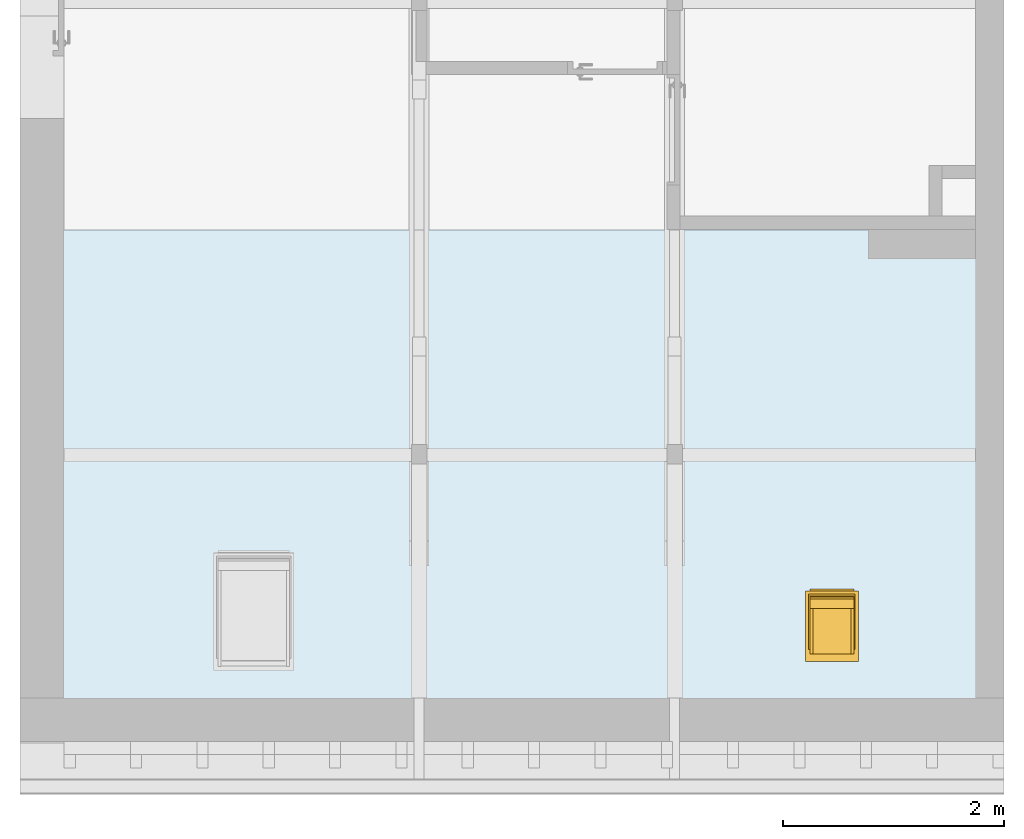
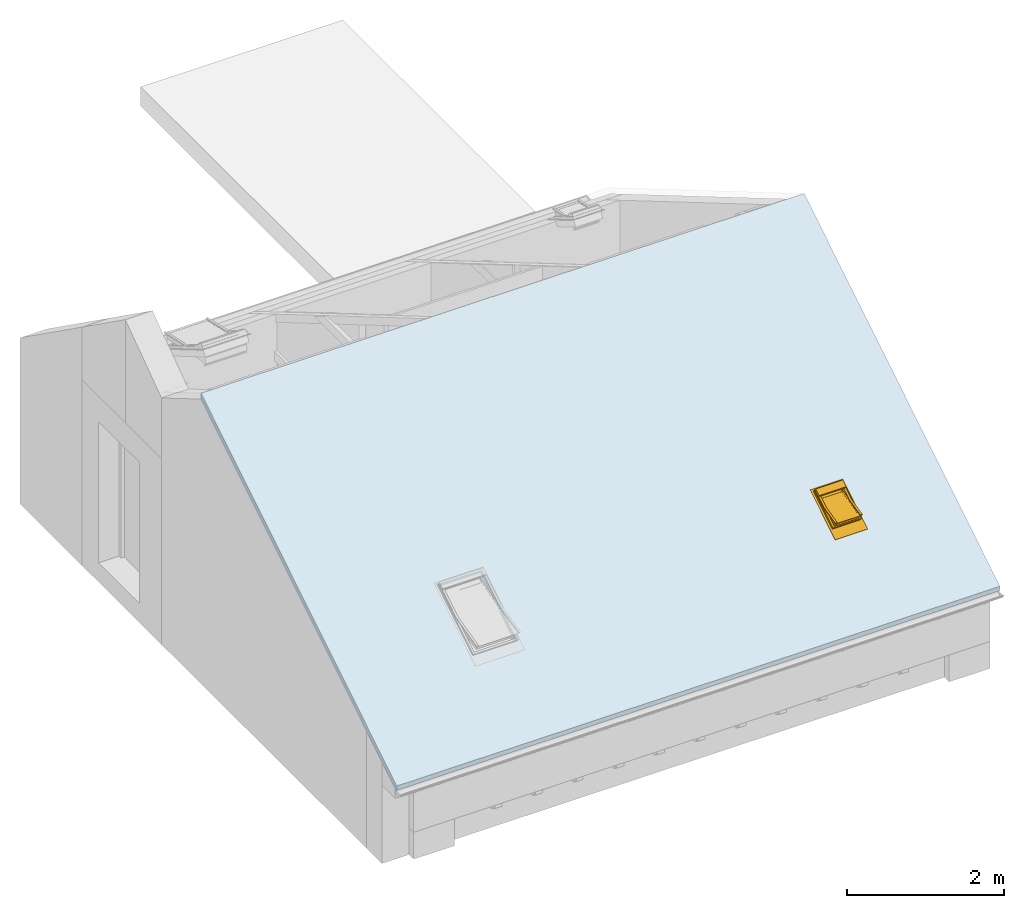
"""IFC4 building model written with IfcOpenShell, lengths in metres."""

import ifcopenshell
import ifcopenshell.guid

model = None  # the IFC model being written
_history = None  # IfcOwnerHistory: only IFC2X3 demands one
_inside = {}  # id of a spatial element -> (the spatial element, [elements in it])
_under = {}  # id of a project, library or spatial element -> (it, [spatial elements below it])
_declared = {}  # id of a project -> (the project, [libraries it declares])
_typed = {}  # id of a type object -> (the type object, [elements of that type])
_made_of = {}  # id of a material, layer set ... -> (it, [elements and type objects made of it])


def new_model(schema):
    """Start an empty IFC model of exactly this schema.

    Asked for "IFC4X3", IfcOpenShell would pick the latest addendum, in which some entities
    have other attributes; the version numbers below select the first issue.
    IFC2X3 requires an IfcOwnerHistory on every rooted entity: one is made here for all.
    """
    global model, _history
    if schema == "IFC4X3":
        model = ifcopenshell.file(schema_version=(4, 3, 0, 0))
    else:
        model = ifcopenshell.file(schema=schema)
    _inside.clear()
    _under.clear()
    _declared.clear()
    _typed.clear()
    _made_of.clear()
    _history = None
    if model.schema == "IFC2X3":
        org = make("IfcOrganization", Name="unknown")
        user = make(
            "IfcPersonAndOrganization",
            ThePerson=make("IfcPerson", FamilyName="unknown"),
            TheOrganization=org,
        )
        app = make(
            "IfcApplication",
            ApplicationDeveloper=org,
            Version="unknown",
            ApplicationFullName="unknown",
            ApplicationIdentifier="unknown",
        )
        _history = make(
            "IfcOwnerHistory",
            OwningUser=user,
            OwningApplication=app,
            ChangeAction="ADDED",
            CreationDate=0,
        )
    return model


def make(cls, **values):
    """One entity of the class cls with the attributes given. An attribute that is None is left unset."""
    return model.create_entity(
        cls, **{name: value for name, value in values.items() if value is not None}
    )


def entity(cls, *values):
    """Any entity or typed value of the class cls, its attributes in the order of the schema. None: left unset."""
    e = model.create_entity(cls)
    for i, value in enumerate(values):
        if value is not None:
            e[i] = value
    return e


def rooted(cls, **values):
    """An entity with a GlobalId (a new one), such as an element, a storey or a relation."""
    return make(cls, GlobalId=ifcopenshell.guid.new(), OwnerHistory=_history, **values)


def si_unit(unit_type, name, prefix=None):
    """IfcSIUnit, for example si_unit("LENGTHUNIT", "METRE", prefix="MILLI")."""
    return make("IfcSIUnit", UnitType=unit_type, Prefix=prefix, Name=name)


def converted_unit(unit_type, name, factor, base, dimensions=None, offset=None):
    """IfcConversionBasedUnit, such as the inch: factor (a typed value) times the base unit."""
    return make(
        "IfcConversionBasedUnit"
        if offset is None
        else "IfcConversionBasedUnitWithOffset",
        ConversionOffset=offset,
        Dimensions=None
        if dimensions is None
        else entity("IfcDimensionalExponents", *dimensions),
        UnitType=unit_type,
        Name=name,
        ConversionFactor=make(
            "IfcMeasureWithUnit", ValueComponent=factor, UnitComponent=base
        ),
    )


def derived_unit(unit_type, elements):
    """IfcDerivedUnit: a product of units, each with its exponent."""
    return make(
        "IfcDerivedUnit",
        Elements=[
            make("IfcDerivedUnitElement", Unit=unit, Exponent=power)
            for unit, power in elements
        ],
        UnitType=unit_type,
    )


def assignment(units):
    """IfcUnitAssignment: the units of a project."""
    return None if units is None else make("IfcUnitAssignment", Units=units)


def point(xyz):
    """IfcCartesianPoint."""
    return None if xyz is None else make("IfcCartesianPoint", Coordinates=xyz)


def direction(xyz):
    """IfcDirection."""
    return None if xyz is None else make("IfcDirection", DirectionRatios=xyz)


def frame(location, z_axis=None, x_axis=None):
    """IfcAxis2Placement3D, a coordinate frame: its origin and axes. An axis left out is left unset."""
    return make(
        "IfcAxis2Placement3D",
        Location=point(location),
        Axis=direction(z_axis),
        RefDirection=direction(x_axis),
    )


def frame_2d(location, x_axis=None):
    """IfcAxis2Placement2D, a coordinate frame in the plane: its origin and x axis."""
    return make(
        "IfcAxis2Placement2D", Location=point(location), RefDirection=direction(x_axis)
    )


def origin():
    """The frame at (0, 0, 0) with its axes left unset."""
    return frame((0.0, 0.0, 0.0))


def origin_with_axes():
    """The frame at (0, 0, 0) with the z axis (0, 0, 1) and the x axis (1, 0, 0) written out."""
    return frame((0.0, 0.0, 0.0), z_axis=(0.0, 0.0, 1.0), x_axis=(1.0, 0.0, 0.0))


def place(relative_to, where):
    """IfcLocalPlacement: puts the frame where relative to a parent placement (None: the world)."""
    return make(
        "IfcLocalPlacement", PlacementRelTo=relative_to, RelativePlacement=where
    )


def context(
    kind, dimensions, precision=None, world=None, true_north=None, identifier=None
):
    """IfcGeometricRepresentationContext, for example the 3D "Model" context."""
    return make(
        "IfcGeometricRepresentationContext",
        ContextIdentifier=identifier,
        ContextType=kind,
        CoordinateSpaceDimension=dimensions,
        Precision=precision,
        WorldCoordinateSystem=world,
        TrueNorth=true_north,
    )


def subcontext(parent, identifier, kind, view, scale=None):
    """IfcGeometricRepresentationSubContext, for example "Body" below "Model"."""
    return make(
        "IfcGeometricRepresentationSubContext",
        ContextIdentifier=identifier,
        ContextType=kind,
        ParentContext=parent,
        TargetScale=scale,
        TargetView=view,
    )


def project(units=None, contexts=None):
    """IfcProject with its units and contexts."""
    return rooted(
        "IfcProject",
        Name="project",
        RepresentationContexts=contexts,
        UnitsInContext=assignment(units),
    )


def spatial(cls, under=None, at=None, **own):
    """A site, building, storey or space (cls), placed at a placement, below another one or the project."""
    s = rooted(cls, ObjectPlacement=at, **own)
    if under is not None:
        _under.setdefault(under.id(), (under, []))[1].append(s)
    return s


def profile(cls, at=None, kind="AREA", **sizes):
    """A parametric profile (cls). Its sizes go by their IFC names, for example OverallWidth=200.0."""
    return make(cls, ProfileType=kind, Position=at, **sizes)


def rectangle(**sizes):
    """IfcRectangleProfileDef."""
    return profile("IfcRectangleProfileDef", **sizes)


def extrude(swept, where, along, depth):
    """IfcExtrudedAreaSolid: the profile swept, set in the frame where, extruded along a direction by depth."""
    return make(
        "IfcExtrudedAreaSolid",
        SweptArea=swept,
        Position=where,
        ExtrudedDirection=direction(along),
        Depth=depth,
    )


def faces_of(points, faces, orient=None, outer=None):
    """IfcFace entities. A face is a list of loops; a loop is a list of indices into points, from 0.

    orient and outer hold one flag for each loop. By default every Orientation is true, the
    first loop of a face is its IfcFaceOuterBound and the others are IfcFaceBound.
    """
    made = []
    for i, loops in enumerate(faces):
        bounds = []
        for j, loop in enumerate(loops):
            is_outer = j == 0 if outer is None else outer[i][j]
            bounds.append(
                make(
                    "IfcFaceOuterBound" if is_outer else "IfcFaceBound",
                    Bound=make("IfcPolyLoop", Polygon=[points[k] for k in loop]),
                    Orientation=True if orient is None else orient[i][j],
                )
            )
        made.append(make("IfcFace", Bounds=bounds))
    return made


def closed_shell(faces, orient=None, outer=None):
    """The faces of one IfcClosedShell. faceted_brep and surface_model build it on their shared points."""
    return ("IfcClosedShell", faces, orient, outer)


def open_shell(faces, orient=None, outer=None):
    """The faces of one IfcOpenShell. surface_model builds it on its shared points."""
    return ("IfcOpenShell", faces, orient, outer)


def faceted_brep(points, faces, orient=None, outer=None, voids=None):
    """IfcFacetedBrep: a solid bounded by flat faces; with voids (closed shells), ...WithVoids."""
    shared = [point(p) for p in points]
    hull = make("IfcClosedShell", CfsFaces=faces_of(shared, faces, orient, outer))
    if voids is None:
        return make("IfcFacetedBrep", Outer=hull)
    return make(
        "IfcFacetedBrepWithVoids",
        Outer=hull,
        Voids=[
            make(cls, CfsFaces=faces_of(shared, fs, o, b)) for cls, fs, o, b in voids
        ],
    )


def surface_model(cls, points, shells):
    """IfcFaceBasedSurfaceModel or IfcShellBasedSurfaceModel (cls): surfaces that need not close."""
    shared = [point(p) for p in points]
    made = [make(c, CfsFaces=faces_of(shared, fs, o, b)) for c, fs, o, b in shells]
    if cls == "IfcFaceBasedSurfaceModel":
        return make(cls, FbsmFaces=made)
    return make(cls, SbsmBoundary=made)


def shape(context_of_items, identifier, shape_type, items):
    """IfcShapeRepresentation: the items that make up one representation, for example the "Body"."""
    return make(
        "IfcShapeRepresentation",
        ContextOfItems=context_of_items,
        RepresentationIdentifier=identifier,
        RepresentationType=shape_type,
        Items=items,
    )


def source(mapping_origin, context_of_items, identifier, shape_type, items):
    """IfcRepresentationMap: a shape defined once, which mapped items show again and again."""
    return make(
        "IfcRepresentationMap",
        MappingOrigin=mapping_origin,
        MappedRepresentation=shape(context_of_items, identifier, shape_type, items),
    )


def transform(
    local_origin,
    x_axis=None,
    y_axis=None,
    z_axis=None,
    scale=None,
    scale2=None,
    scale3=None,
    uniform=True,
):
    """IfcCartesianTransformationOperator3D, or its non-uniform kind. x_axis, y_axis, z_axis: its Axis1, 2, 3."""
    if uniform:
        return make(
            "IfcCartesianTransformationOperator3D",
            Axis1=direction(x_axis),
            Axis2=direction(y_axis),
            LocalOrigin=point(local_origin),
            Scale=scale,
            Axis3=direction(z_axis),
        )
    return make(
        "IfcCartesianTransformationOperator3DnonUniform",
        Axis1=direction(x_axis),
        Axis2=direction(y_axis),
        LocalOrigin=point(local_origin),
        Scale=scale,
        Axis3=direction(z_axis),
        Scale2=scale2,
        Scale3=scale3,
    )


def mapped(mapping_source, mapping_target):
    """IfcMappedItem: shows the shape of a source again, moved by a transform."""
    return make(
        "IfcMappedItem", MappingSource=mapping_source, MappingTarget=mapping_target
    )


def made_of(thing, what):
    """Note that an element or type object is made of a material, layer set ...; save() writes the relation."""
    if what is not None:
        _made_of.setdefault(what.id(), (what, []))[1].append(thing)
    return thing


def element(
    cls,
    number,
    at=None,
    inside=None,
    cuts=None,
    type_object=None,
    material=None,
    context=None,
    identifier="Body",
    shape_type=None,
    held_by="IfcProductDefinitionShape",
    body=None,
    shapes=None,
    **own,
):
    """One element of the class cls, such as IfcWall. Its Tag is "e" and its number.

    at: its placement. inside: the storey or other place that contains it. cuts: it is an
    opening in that element (IfcRelVoidsElement). A single representation is given by context,
    identifier, shape_type and body (its items); several are given by shapes. held_by: the class
    of the entity that holds the representations. save() writes the other relations.
    """
    e = rooted(cls, Tag="e%d" % number, ObjectPlacement=at, **own)
    if body is not None:
        shapes = [shape(context, identifier, shape_type, body)]
    if shapes is not None:
        e.Representation = make(held_by, Representations=shapes)
    if inside is not None:
        _inside.setdefault(inside.id(), (inside, []))[1].append(e)
    if cuts is not None:
        rooted(
            "IfcRelVoidsElement", RelatingBuildingElement=cuts, RelatedOpeningElement=e
        )
    if type_object is not None:
        _typed.setdefault(type_object.id(), (type_object, []))[1].append(e)
    return made_of(e, material)


def fill(opening, filler):
    """IfcRelFillsElement: the door or window that sits in an opening."""
    return rooted(
        "IfcRelFillsElement",
        RelatingOpeningElement=opening,
        RelatedBuildingElement=filler,
    )


def aggregate(whole, parts):
    """IfcRelAggregates: a whole, such as a stair, and the parts it consists of."""
    return rooted("IfcRelAggregates", RelatingObject=whole, RelatedObjects=parts)


def save(model, path):
    """Write the relations noted so far, then the file.

    IfcRelAggregates (storeys below a building ...), IfcRelContainedInSpatialStructure (elements
    in a storey), IfcRelDefinesByType, IfcRelAssociatesMaterial and IfcRelDeclares: one each for
    every whole, place, type object, material and project.
    """
    for whole, parts in _under.values():
        aggregate(whole, parts)
    for where, things in _inside.values():
        rooted(
            "IfcRelContainedInSpatialStructure",
            RelatedElements=things,
            RelatingStructure=where,
        )
    for kind, things in _typed.values():
        rooted("IfcRelDefinesByType", RelatedObjects=things, RelatingType=kind)
    for what, things in _made_of.values():
        rooted("IfcRelAssociatesMaterial", RelatedObjects=things, RelatingMaterial=what)
    for by, libraries in _declared.values():
        rooted("IfcRelDeclares", RelatingContext=by, RelatedDefinitions=libraries)
    model.write(path)


model = new_model("IFC4")

# Units and contexts
model_context = context("Model", 3, precision=1e-05, world=origin())
body_context = subcontext(model_context, "Body", "Model", "MODEL_VIEW")
ifc_project = project(units=[si_unit("LENGTHUNIT", "METRE"), si_unit("AREAUNIT", "SQUARE_METRE"), si_unit("VOLUMEUNIT", "CUBIC_METRE"), si_unit("MASSUNIT", "GRAM", prefix="KILO"), converted_unit("PLANEANGLEUNIT", "DEGREE", entity("IfcPlaneAngleMeasure", 0.0174532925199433), si_unit("PLANEANGLEUNIT", "RADIAN"), dimensions=[0, 0, 0, 0, 0, 0, 0]), derived_unit("THERMALTRANSMITTANCEUNIT", [(si_unit("POWERUNIT", "WATT"), 1), (si_unit("THERMODYNAMICTEMPERATUREUNIT", "KELVIN"), -1), (si_unit("LENGTHUNIT", "METRE"), -2)]), derived_unit("VOLUMETRICFLOWRATEUNIT", [(si_unit("LENGTHUNIT", "METRE"), 3), (converted_unit("TIMEUNIT", "hour", entity("IfcTimeMeasure", 3600.0), si_unit("TIMEUNIT", "SECOND"), dimensions=[0, 0, 1, 0, 0, 0, 0]), -1), (si_unit("LENGTHUNIT", "METRE"), -1)])], contexts=[model_context])

# Building, storeys
building_placement = place(None, origin())
building = spatial("IfcBuilding", under=ifc_project, at=building_placement, Name="Bestandsgebäude A - Sporthalle / Wohnhaus (TB 100-499)   ANPASSEN !!!", CompositionType="ELEMENT")
storey_1_placement = place(building_placement, frame((0.0, 0.0, 7.71)))
storey_1 = spatial("IfcBuildingStorey", under=building, at=storey_1_placement, Name="Geb. A Dachgeschoss (TB 450-499)", CompositionType="ELEMENT", Elevation=7.71)
storey_2_placement = place(storey_1_placement, frame((0.0, 0.0, 7.71)))
storey_2 = spatial("IfcBuildingStorey", under=storey_1, at=storey_2_placement, Name="Architektur (TB 450-459)", CompositionType="PARTIAL")

# Roof, slab, openings, window
roof_placement = place(storey_2_placement, frame((0.0, 0.0, -15.42)))
roof = element("IfcRoof", 1, at=roof_placement, inside=storey_2, PredefinedType="NOTDEFINED")
slab_placement = place(roof_placement, frame((-8.9, -0.380000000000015, 8.68128203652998)))
slab = element("IfcSlab", 2, at=slab_placement, PredefinedType="ROOF", context=body_context, shape_type="Brep", body=[
    faceted_brep([(0.0, 5.00491922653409, 3.06870697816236), (0.0, 0.0420733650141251, 0.0), (8.9, 0.0420733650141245, 0.0), (8.9, 5.0049192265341, 3.06870697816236), (2.43891452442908, 1.20043037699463, 0.71625400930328), (1.78891452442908, 1.20043037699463, 0.71625400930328), (1.78891452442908, 2.0934930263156, 1.26846692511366), (2.43891452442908, 2.0934930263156, 1.26846692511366), (7.54391452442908, 1.28129961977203, 0.766258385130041), (7.14391452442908, 1.28129961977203, 0.766258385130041), (7.14391452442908, 1.74909434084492, 1.05551276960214), (7.54391452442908, 1.74909434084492, 1.05551276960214), (0.0, 5.00388384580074, 3.16212511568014), (8.9, 5.00388384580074, 3.16212511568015), (8.9, 0.0, 0.068042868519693), (0.0, 0.0, 0.068042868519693), (1.78891452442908, 1.1583570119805, 0.784296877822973), (2.43891452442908, 1.1583570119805, 0.784296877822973), (2.43891452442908, 2.05141966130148, 1.33650979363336), (1.78891452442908, 2.05141966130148, 1.33650979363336), (7.14391452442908, 1.2392262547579, 0.834301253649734), (7.54391452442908, 1.2392262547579, 0.834301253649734), (7.54391452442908, 1.7070209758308, 1.12355563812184), (7.14391452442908, 1.7070209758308, 1.12355563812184), (0.0, 0.0, 0.0), (8.9, 0.0, 0.0)], [[[0, 1, 2, 3], [4, 5, 6, 7], [8, 9, 10, 11]], [[12, 13, 14, 15], [16, 17, 18, 19], [20, 21, 22, 23]], [[12, 15, 24, 1, 0]], [[14, 13, 3, 2, 25]], [[13, 12, 0, 3]], [[24, 25, 2, 1]], [[15, 14, 25, 24]], [[16, 5, 4, 17]], [[18, 7, 6, 19]], [[16, 19, 6, 5]], [[18, 17, 4, 7]], [[20, 9, 8, 21]], [[22, 11, 10, 23]], [[20, 23, 10, 9]], [[22, 21, 8, 11]]], orient=[[False, False, False], [False, False, False], [False], [False], [False], [False], [False], [False], [False], [False], [False], [False], [False], [False], [False]]),
])
opening_1_placement = place(slab_placement, frame((1.78891452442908, 1.1583570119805, 0.784296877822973), z_axis=(-5.33434646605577e-17, -0.525917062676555, 0.850535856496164), x_axis=(-1.0, 1.01429423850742e-16, 0.0)))
element("IfcOpeningElement", 3, at=opening_1_placement, cuts=slab, Name="Skylight", ObjectType="Opening", context=body_context, shape_type="SweptSolid", body=[
    extrude(rectangle(XDim=0.65, YDim=1.05, at=frame_2d((-0.325, -0.525), x_axis=(-1.0, 0.0))), origin_with_axes(), (0.0, 0.0, -1.0), 0.08),
])
opening_2_placement = place(slab_placement, frame((7.14391452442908, 1.2392262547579, 0.834301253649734), z_axis=(-5.33434646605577e-17, -0.525917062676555, 0.850535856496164), x_axis=(-1.0, 1.01429423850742e-16, 0.0)))
opening_2 = element("IfcOpeningElement", 4, at=opening_2_placement, cuts=slab, Name="Skylight", ObjectType="Opening", context=body_context, shape_type="SweptSolid", body=[
    extrude(rectangle(XDim=0.4, YDim=0.55, at=frame_2d((-0.2, -0.275), x_axis=(-1.0, 0.0))), origin_with_axes(), (0.0, 0.0, -1.0), 0.08),
])
shared_shape = source(origin_with_axes(), body_context, "Body", "SurfaceModel", [
    surface_model("IfcShellBasedSurfaceModel", [(0.03, 0.15, 0.149221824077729), (0.03, 0.15, 0.189221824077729), (0.049999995, 0.15, 0.189221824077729), (0.049999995, 0.15, 0.149221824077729), (0.03, 0.72, 0.189221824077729), (0.03, 0.72, 0.149221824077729), (0.049999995, 0.72, 0.149221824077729), (0.049999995, 0.72, 0.189221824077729)], [closed_shell([[[0, 1, 2, 3]], [[4, 5, 6, 7]], [[1, 0, 5, 4]], [[2, 1, 4, 7]], [[3, 2, 7, 6]], [[0, 3, 6, 5]]], orient=[[False], [False], [False], [False], [False], [False]])]),
    surface_model("IfcShellBasedSurfaceModel", [(0.430000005, 0.15, 0.149221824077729), (0.430000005, 0.15, 0.189221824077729), (0.45, 0.15, 0.189221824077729), (0.45, 0.15, 0.149221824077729), (0.430000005, 0.72, 0.189221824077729), (0.430000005, 0.72, 0.149221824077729), (0.45, 0.72, 0.149221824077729), (0.45, 0.72, 0.189221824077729)], [closed_shell([[[0, 1, 2, 3]], [[4, 5, 6, 7]], [[1, 0, 5, 4]], [[2, 1, 4, 7]], [[3, 2, 7, 6]], [[0, 3, 6, 5]]], orient=[[False], [False], [False], [False], [False], [False]])]),
    surface_model("IfcShellBasedSurfaceModel", [(0.049999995, 0.15, 0.149221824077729), (0.049999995, 0.15, 0.184221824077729), (0.430000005, 0.15, 0.184221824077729), (0.430000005, 0.15, 0.149221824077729), (0.049999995, 0.169999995, 0.184221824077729), (0.049999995, 0.169999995, 0.149221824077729), (0.430000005, 0.169999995, 0.149221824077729), (0.430000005, 0.169999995, 0.184221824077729)], [closed_shell([[[0, 1, 2, 3]], [[4, 5, 6, 7]], [[1, 0, 5, 4]], [[2, 1, 4, 7]], [[3, 2, 7, 6]], [[0, 3, 6, 5]]], orient=[[False], [False], [False], [False], [False], [False]])]),
    surface_model("IfcShellBasedSurfaceModel", [(0.049999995, 0.700000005, 0.149221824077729), (0.049999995, 0.700000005, 0.189221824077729), (0.430000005, 0.700000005, 0.189221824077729), (0.430000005, 0.700000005, 0.149221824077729), (0.049999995, 0.72, 0.189221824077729), (0.049999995, 0.72, 0.149221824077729), (0.430000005, 0.72, 0.149221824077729), (0.430000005, 0.72, 0.189221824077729)], [closed_shell([[[0, 1, 2, 3]], [[4, 5, 6, 7]], [[1, 0, 5, 4]], [[2, 1, 4, 7]], [[3, 2, 7, 6]], [[0, 3, 6, 5]]], orient=[[False], [False], [False], [False], [False], [False]])]),
    surface_model("IfcShellBasedSurfaceModel", [(0.0, 0.0, 0.149221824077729), (0.0, 0.0, 0.154221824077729), (0.03, 0.0, 0.154221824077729), (0.03, 0.0, 0.149221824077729), (0.0, 0.72, 0.154221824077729), (0.0, 0.72, 0.149221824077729), (0.03, 0.72, 0.149221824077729), (0.03, 0.72, 0.154221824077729)], [closed_shell([[[0, 1, 2, 3]], [[4, 5, 6, 7]], [[1, 0, 5, 4]], [[2, 1, 4, 7]], [[3, 2, 7, 6]], [[0, 3, 6, 5]]], orient=[[False], [False], [False], [False], [False], [False]])]),
    surface_model("IfcShellBasedSurfaceModel", [(0.03, 0.0, 0.149221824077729), (0.03, 0.0, 0.154221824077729), (0.45, 0.0, 0.154221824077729), (0.45, 0.0, 0.149221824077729), (0.03, 0.15, 0.154221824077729), (0.03, 0.15, 0.149221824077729), (0.45, 0.15, 0.149221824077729), (0.45, 0.15, 0.154221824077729)], [closed_shell([[[0, 1, 2, 3]], [[4, 5, 6, 7]], [[1, 0, 5, 4]], [[2, 1, 4, 7]], [[3, 2, 7, 6]], [[0, 3, 6, 5]]], orient=[[False], [False], [False], [False], [False], [False]])]),
    surface_model("IfcShellBasedSurfaceModel", [(0.45, 0.0, 0.149221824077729), (0.45, 0.0, 0.154221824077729), (0.48, 0.0, 0.154221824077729), (0.48, 0.0, 0.149221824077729), (0.45, 0.72, 0.154221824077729), (0.45, 0.72, 0.149221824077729), (0.48, 0.72, 0.149221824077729), (0.48, 0.72, 0.154221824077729)], [closed_shell([[[0, 1, 2, 3]], [[4, 5, 6, 7]], [[1, 0, 5, 4]], [[2, 1, 4, 7]], [[3, 2, 7, 6]], [[0, 3, 6, 5]]], orient=[[False], [False], [False], [False], [False], [False]])]),
    surface_model("IfcShellBasedSurfaceModel", [(0.0, 0.72, 0.149221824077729), (0.0, 0.72, 0.154221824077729), (0.48, 0.72, 0.154221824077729), (0.48, 0.72, 0.149221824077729), (0.0, 0.75, 0.154221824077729), (0.0, 0.75, 0.149221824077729), (0.48, 0.75, 0.149221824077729), (0.48, 0.75, 0.154221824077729)], [closed_shell([[[0, 1, 2, 3]], [[4, 5, 6, 7]], [[1, 0, 5, 4]], [[2, 1, 4, 7]], [[3, 2, 7, 6]], [[0, 3, 6, 5]]], orient=[[False], [False], [False], [False], [False], [False]])]),
    surface_model("IfcShellBasedSurfaceModel", [(0.049999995, 0.17999999, 0.149221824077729), (0.049999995, 0.17999999, 0.189221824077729), (0.05999999, 0.17999999, 0.189221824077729), (0.05999999, 0.17999999, 0.0492218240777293), (0.04, 0.17999999, 0.0492218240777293), (0.04, 0.17999999, 0.149221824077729), (0.049999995, 0.69000001, 0.189221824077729), (0.049999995, 0.69000001, 0.149221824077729), (0.04, 0.69000001, 0.149221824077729), (0.04, 0.69000001, 0.0492218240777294), (0.05999999, 0.69000001, 0.0492218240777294), (0.05999999, 0.69000001, 0.189221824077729)], [closed_shell([[[0, 1, 2, 3, 4, 5]], [[6, 7, 8, 9, 10, 11]], [[1, 0, 7, 6]], [[2, 1, 6, 11]], [[3, 2, 11, 10]], [[4, 3, 10, 9]], [[5, 4, 9, 8]], [[0, 5, 8, 7]]], orient=[[False], [False], [False], [False], [False], [False], [False], [False]])]),
    surface_model("IfcShellBasedSurfaceModel", [(0.42000001, 0.17999999, 0.0492218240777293), (0.42000001, 0.17999999, 0.189221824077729), (0.430000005, 0.17999999, 0.189221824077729), (0.430000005, 0.17999999, 0.149221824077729), (0.44, 0.17999999, 0.149221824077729), (0.44, 0.17999999, 0.0492218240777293), (0.42000001, 0.69000001, 0.189221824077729), (0.42000001, 0.69000001, 0.0492218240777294), (0.44, 0.69000001, 0.0492218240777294), (0.44, 0.69000001, 0.149221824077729), (0.430000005, 0.69000001, 0.149221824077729), (0.430000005, 0.69000001, 0.189221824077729)], [closed_shell([[[0, 1, 2, 3, 4, 5]], [[6, 7, 8, 9, 10, 11]], [[1, 0, 7, 6]], [[2, 1, 6, 11]], [[3, 2, 11, 10]], [[4, 3, 10, 9]], [[5, 4, 9, 8]], [[0, 5, 8, 7]]], orient=[[False], [False], [False], [False], [False], [False], [False], [False]])]),
    surface_model("IfcShellBasedSurfaceModel", [(0.04, 0.17999999, 0.184221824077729), (0.04, 0.169999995, 0.184221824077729), (0.04, 0.169999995, 0.149221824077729), (0.04, 0.16, 0.149221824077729), (0.04, 0.16, 0.0492218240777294), (0.04, 0.17999999, 0.0492218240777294), (0.44, 0.169999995, 0.184221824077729), (0.44, 0.17999999, 0.184221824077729), (0.44, 0.17999999, 0.0492218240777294), (0.44, 0.16, 0.0492218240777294), (0.44, 0.16, 0.149221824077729), (0.44, 0.169999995, 0.149221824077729)], [closed_shell([[[0, 1, 2, 3, 4, 5]], [[6, 7, 8, 9, 10, 11]], [[1, 0, 7, 6]], [[2, 1, 6, 11]], [[3, 2, 11, 10]], [[4, 3, 10, 9]], [[5, 4, 9, 8]], [[0, 5, 8, 7]]], orient=[[False], [False], [False], [False], [False], [False], [False], [False]])]),
    surface_model("IfcShellBasedSurfaceModel", [(0.04, 0.700000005, 0.189221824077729), (0.04, 0.69000001, 0.189221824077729), (0.04, 0.69000001, 0.0492218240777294), (0.04, 0.71, 0.0492218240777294), (0.04, 0.71, 0.149221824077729), (0.04, 0.700000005, 0.149221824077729), (0.44, 0.69000001, 0.189221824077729), (0.44, 0.700000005, 0.189221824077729), (0.44, 0.700000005, 0.149221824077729), (0.44, 0.71, 0.149221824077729), (0.44, 0.71, 0.0492218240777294), (0.44, 0.69000001, 0.0492218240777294)], [closed_shell([[[0, 1, 2, 3, 4, 5]], [[6, 7, 8, 9, 10, 11]], [[1, 0, 7, 6]], [[2, 1, 6, 11]], [[3, 2, 11, 10]], [[4, 3, 10, 9]], [[5, 4, 9, 8]], [[0, 5, 8, 7]]], orient=[[False], [False], [False], [False], [False], [False], [False], [False]])]),
    surface_model("IfcShellBasedSurfaceModel", [(0.03999999, 0.435, 0.189221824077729), (0.03999999, 0.435, 0.204221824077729), (0.06999999, 0.435, 0.204221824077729), (0.06999999, 0.435, 0.189221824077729), (0.03999999, 0.69000001, 0.204221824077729), (0.03999999, 0.69000001, 0.189221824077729), (0.06999999, 0.69000001, 0.189221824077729), (0.06999999, 0.69000001, 0.204221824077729)], [closed_shell([[[0, 1, 2, 3]], [[4, 5, 6, 7]], [[1, 0, 5, 4]], [[2, 1, 4, 7]], [[3, 2, 7, 6]], [[0, 3, 6, 5]]], orient=[[False], [False], [False], [False], [False], [False]])]),
    surface_model("IfcShellBasedSurfaceModel", [(0.41000001, 0.435, 0.189221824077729), (0.41000001, 0.435, 0.204221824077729), (0.44000001, 0.435, 0.204221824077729), (0.44000001, 0.435, 0.189221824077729), (0.41000001, 0.69000001, 0.204221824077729), (0.41000001, 0.69000001, 0.189221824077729), (0.44000001, 0.69000001, 0.189221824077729), (0.44000001, 0.69000001, 0.204221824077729)], [closed_shell([[[0, 1, 2, 3]], [[4, 5, 6, 7]], [[1, 0, 5, 4]], [[2, 1, 4, 7]], [[3, 2, 7, 6]], [[0, 3, 6, 5]]], orient=[[False], [False], [False], [False], [False], [False]])]),
    surface_model("IfcShellBasedSurfaceModel", [(0.04, 0.61000001, 0.189221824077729), (0.04, 0.61000001, 0.229221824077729), (0.44, 0.61000001, 0.229221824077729), (0.44, 0.61000001, 0.189221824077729), (0.04, 0.71, 0.229221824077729), (0.04, 0.71, 0.189221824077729), (0.44, 0.71, 0.189221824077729), (0.44, 0.71, 0.229221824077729)], [closed_shell([[[0, 1, 2, 3]], [[4, 5, 6, 7]], [[1, 0, 5, 4]], [[2, 1, 4, 7]], [[3, 2, 7, 6]], [[0, 3, 6, 5]]], orient=[[False], [False], [False], [False], [False], [False]])]),
    surface_model("IfcShellBasedSurfaceModel", [(0.07999998, 0.206093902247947, 0.260197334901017), (0.40000002, 0.206093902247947, 0.260197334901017), (0.40000002, 0.596027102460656, 0.133500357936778), (0.07999998, 0.596027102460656, 0.133500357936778)], [open_shell([[[0, 1, 2, 3]]], orient=[[False]])]),
    surface_model("IfcShellBasedSurfaceModel", [(0.069999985, 0.195810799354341, 0.260909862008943), (0.069999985, 0.197355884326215, 0.265665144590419), (0.07999998, 0.197355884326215, 0.265665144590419), (0.07999998, 0.195810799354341, 0.260909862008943), (0.069999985, 0.606310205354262, 0.132787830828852), (0.069999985, 0.604765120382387, 0.128032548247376), (0.07999998, 0.604765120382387, 0.128032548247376), (0.07999998, 0.606310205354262, 0.132787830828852)], [closed_shell([[[0, 1, 2, 3]], [[4, 5, 6, 7]], [[1, 0, 5, 4]], [[2, 1, 4, 7]], [[3, 2, 7, 6]], [[0, 3, 6, 5]]], orient=[[False], [False], [False], [False], [False], [False]])]),
    surface_model("IfcShellBasedSurfaceModel", [(0.40000002, 0.195810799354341, 0.260909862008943), (0.40000002, 0.197355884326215, 0.265665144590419), (0.410000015, 0.197355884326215, 0.265665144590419), (0.410000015, 0.195810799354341, 0.260909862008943), (0.40000002, 0.606310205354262, 0.132787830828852), (0.40000002, 0.604765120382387, 0.128032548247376), (0.410000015, 0.604765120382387, 0.128032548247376), (0.410000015, 0.606310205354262, 0.132787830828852)], [closed_shell([[[0, 1, 2, 3]], [[4, 5, 6, 7]], [[1, 0, 5, 4]], [[2, 1, 4, 7]], [[3, 2, 7, 6]], [[0, 3, 6, 5]]], orient=[[False], [False], [False], [False], [False], [False]])]),
    surface_model("IfcShellBasedSurfaceModel", [(0.07999998, 0.195810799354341, 0.260909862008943), (0.07999998, 0.197355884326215, 0.265665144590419), (0.40000002, 0.197355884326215, 0.265665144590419), (0.40000002, 0.195810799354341, 0.260909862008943), (0.07999998, 0.206866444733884, 0.262574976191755), (0.07999998, 0.20532135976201, 0.257819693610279), (0.40000002, 0.20532135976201, 0.257819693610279), (0.40000002, 0.206866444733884, 0.262574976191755)], [closed_shell([[[0, 1, 2, 3]], [[4, 5, 6, 7]], [[1, 0, 5, 4]], [[2, 1, 4, 7]], [[3, 2, 7, 6]], [[0, 3, 6, 5]]], orient=[[False], [False], [False], [False], [False], [False]])]),
    surface_model("IfcShellBasedSurfaceModel", [(0.07999998, 0.595254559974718, 0.131122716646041), (0.07999998, 0.596799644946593, 0.135877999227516), (0.40000002, 0.596799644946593, 0.135877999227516), (0.40000002, 0.595254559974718, 0.131122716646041), (0.07999998, 0.606310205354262, 0.132787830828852), (0.07999998, 0.604765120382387, 0.128032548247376), (0.40000002, 0.604765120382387, 0.128032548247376), (0.40000002, 0.606310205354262, 0.132787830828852)], [closed_shell([[[0, 1, 2, 3]], [[4, 5, 6, 7]], [[1, 0, 5, 4]], [[2, 1, 4, 7]], [[3, 2, 7, 6]], [[0, 3, 6, 5]]], orient=[[False], [False], [False], [False], [False], [False]])]),
    surface_model("IfcShellBasedSurfaceModel", [(0.05999999, 0.163123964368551, 0.192670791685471), (0.05999999, 0.187845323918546, 0.268755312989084), (0.069999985, 0.187845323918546, 0.268755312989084), (0.069999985, 0.186300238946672, 0.264000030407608), (0.07999998, 0.186300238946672, 0.264000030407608), (0.07999998, 0.163123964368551, 0.192670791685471), (0.05999999, 0.672884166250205, 0.11115663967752), (0.05999999, 0.648162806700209, 0.0350721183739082), (0.07999998, 0.648162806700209, 0.0350721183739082), (0.07999998, 0.671339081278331, 0.106401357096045), (0.069999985, 0.671339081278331, 0.106401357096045), (0.069999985, 0.672884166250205, 0.11115663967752)], [closed_shell([[[0, 1, 2, 3, 4, 5]], [[6, 7, 8, 9, 10, 11]], [[1, 0, 7, 6]], [[2, 1, 6, 11]], [[3, 2, 11, 10]], [[4, 3, 10, 9]], [[5, 4, 9, 8]], [[0, 5, 8, 7]]], orient=[[False], [False], [False], [False], [False], [False], [False], [False]])]),
    surface_model("IfcShellBasedSurfaceModel", [(0.410000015, 0.186300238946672, 0.264000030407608), (0.410000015, 0.187845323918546, 0.268755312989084), (0.42000001, 0.187845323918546, 0.268755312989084), (0.42000001, 0.163123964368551, 0.192670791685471), (0.40000002, 0.163123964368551, 0.192670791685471), (0.40000002, 0.186300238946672, 0.264000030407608), (0.410000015, 0.672884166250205, 0.11115663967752), (0.410000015, 0.671339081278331, 0.106401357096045), (0.40000002, 0.671339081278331, 0.106401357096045), (0.40000002, 0.648162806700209, 0.0350721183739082), (0.42000001, 0.648162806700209, 0.0350721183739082), (0.42000001, 0.672884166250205, 0.11115663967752)], [closed_shell([[[0, 1, 2, 3, 4, 5]], [[6, 7, 8, 9, 10, 11]], [[1, 0, 7, 6]], [[2, 1, 6, 11]], [[3, 2, 11, 10]], [[4, 3, 10, 9]], [[5, 4, 9, 8]], [[0, 5, 8, 7]]], orient=[[False], [False], [False], [False], [False], [False], [False], [False]])]),
    surface_model("IfcShellBasedSurfaceModel", [(0.07999998, 0.163123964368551, 0.192670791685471), (0.07999998, 0.186300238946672, 0.264000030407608), (0.40000002, 0.186300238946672, 0.264000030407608), (0.40000002, 0.163123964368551, 0.192670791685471), (0.07999998, 0.20532135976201, 0.257819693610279), (0.07999998, 0.182145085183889, 0.186490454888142), (0.40000002, 0.182145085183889, 0.186490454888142), (0.40000002, 0.20532135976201, 0.257819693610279)], [closed_shell([[[0, 1, 2, 3]], [[4, 5, 6, 7]], [[1, 0, 5, 4]], [[2, 1, 4, 7]], [[3, 2, 7, 6]], [[0, 3, 6, 5]]], orient=[[False], [False], [False], [False], [False], [False]])]),
    surface_model("IfcShellBasedSurfaceModel", [(0.07999998, 0.572078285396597, 0.059793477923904), (0.07999998, 0.595254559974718, 0.131122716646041), (0.40000002, 0.595254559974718, 0.131122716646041), (0.40000002, 0.572078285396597, 0.059793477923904), (0.07999998, 0.671339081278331, 0.106401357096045), (0.07999998, 0.648162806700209, 0.0350721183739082), (0.40000002, 0.648162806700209, 0.0350721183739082), (0.40000002, 0.671339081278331, 0.106401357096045)], [closed_shell([[[0, 1, 2, 3]], [[4, 5, 6, 7]], [[1, 0, 5, 4]], [[2, 1, 4, 7]], [[3, 2, 7, 6]], [[0, 3, 6, 5]]], orient=[[False], [False], [False], [False], [False], [False]])]),
    surface_model("IfcShellBasedSurfaceModel", [(0.05999999, 0.576953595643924, 0.0424374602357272), (0.05999999, 0.581588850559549, 0.0567033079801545), (0.42000001, 0.581588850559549, 0.0567033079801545), (0.42000001, 0.576953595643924, 0.0424374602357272), (0.05999999, 0.638652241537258, 0.0381622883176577), (0.05999999, 0.634016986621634, 0.0238964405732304), (0.42000001, 0.634016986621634, 0.0238964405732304), (0.42000001, 0.638652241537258, 0.0381622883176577)], [closed_shell([[[0, 1, 2, 3]], [[4, 5, 6, 7]], [[1, 0, 5, 4]], [[2, 1, 4, 7]], [[3, 2, 7, 6]], [[0, 3, 6, 5]]], orient=[[False], [False], [False], [False], [False], [False]])]),
    surface_model("IfcShellBasedSurfaceModel", [(0.07499999, 0.592172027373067, 0.0164634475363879), (0.07499999, 0.598352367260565, 0.0354845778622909), (0.08999999, 0.598352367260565, 0.0354845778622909), (0.08999999, 0.592172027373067, 0.0164634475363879), (0.07499999, 0.612618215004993, 0.0308493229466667), (0.07499999, 0.606437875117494, 0.0118281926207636), (0.08999999, 0.606437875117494, 0.0118281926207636), (0.08999999, 0.612618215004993, 0.0308493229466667)], [closed_shell([[[0, 1, 2, 3]], [[4, 5, 6, 7]], [[1, 0, 5, 4]], [[2, 1, 4, 7]], [[3, 2, 7, 6]], [[0, 3, 6, 5]]], orient=[[False], [False], [False], [False], [False], [False]])]),
    surface_model("IfcShellBasedSurfaceModel", [(0.179999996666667, 0.592172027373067, 0.0164634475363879), (0.179999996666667, 0.598352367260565, 0.0354845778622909), (0.194999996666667, 0.598352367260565, 0.0354845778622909), (0.194999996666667, 0.592172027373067, 0.0164634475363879), (0.179999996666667, 0.612618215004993, 0.0308493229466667), (0.179999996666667, 0.606437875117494, 0.0118281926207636), (0.194999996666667, 0.606437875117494, 0.0118281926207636), (0.194999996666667, 0.612618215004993, 0.0308493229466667)], [closed_shell([[[0, 1, 2, 3]], [[4, 5, 6, 7]], [[1, 0, 5, 4]], [[2, 1, 4, 7]], [[3, 2, 7, 6]], [[0, 3, 6, 5]]], orient=[[False], [False], [False], [False], [False], [False]])]),
    surface_model("IfcShellBasedSurfaceModel", [(0.285000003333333, 0.592172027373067, 0.0164634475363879), (0.285000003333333, 0.598352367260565, 0.0354845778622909), (0.300000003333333, 0.598352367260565, 0.0354845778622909), (0.300000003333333, 0.592172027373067, 0.0164634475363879), (0.285000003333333, 0.612618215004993, 0.0308493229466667), (0.285000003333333, 0.606437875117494, 0.0118281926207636), (0.300000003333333, 0.606437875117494, 0.0118281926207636), (0.300000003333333, 0.612618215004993, 0.0308493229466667)], [closed_shell([[[0, 1, 2, 3]], [[4, 5, 6, 7]], [[1, 0, 5, 4]], [[2, 1, 4, 7]], [[3, 2, 7, 6]], [[0, 3, 6, 5]]], orient=[[False], [False], [False], [False], [False], [False]])]),
    surface_model("IfcShellBasedSurfaceModel", [(0.39000001, 0.592172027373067, 0.0164634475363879), (0.39000001, 0.598352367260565, 0.0354845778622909), (0.40500001, 0.598352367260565, 0.0354845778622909), (0.40500001, 0.592172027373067, 0.0164634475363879), (0.39000001, 0.612618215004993, 0.0308493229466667), (0.39000001, 0.606437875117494, 0.0118281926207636), (0.40500001, 0.606437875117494, 0.0118281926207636), (0.40500001, 0.612618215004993, 0.0308493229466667)], [closed_shell([[[0, 1, 2, 3]], [[4, 5, 6, 7]], [[1, 0, 5, 4]], [[2, 1, 4, 7]], [[3, 2, 7, 6]], [[0, 3, 6, 5]]], orient=[[False], [False], [False], [False], [False], [False]])]),
    surface_model("IfcShellBasedSurfaceModel", [(0.05999999, 0.581948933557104, 0.0092705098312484), (0.05999999, 0.585039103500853, 0.0187810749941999), (0.42000001, 0.585039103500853, 0.0187810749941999), (0.42000001, 0.581948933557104, 0.0092705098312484), (0.05999999, 0.613570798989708, 0.00951056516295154), (0.05999999, 0.610480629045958, 0.0), (0.42000001, 0.610480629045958, 0.0), (0.42000001, 0.613570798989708, 0.00951056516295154)], [closed_shell([[[0, 1, 2, 3]], [[4, 5, 6, 7]], [[1, 0, 5, 4]], [[2, 1, 4, 7]], [[3, 2, 7, 6]], [[0, 3, 6, 5]]], orient=[[False], [False], [False], [False], [False], [False]])]),
    surface_model("IfcShellBasedSurfaceModel", [(0.03999999, 0.159313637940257, 0.278025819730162), (0.03999999, 0.163948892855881, 0.292291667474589), (0.06999999, 0.163948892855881, 0.292291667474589), (0.06999999, 0.159313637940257, 0.278025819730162), (0.03999999, 0.435, 0.204221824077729), (0.03999999, 0.430364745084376, 0.189955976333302), (0.06999999, 0.430364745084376, 0.189955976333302), (0.06999999, 0.435, 0.204221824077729)], [closed_shell([[[0, 1, 2, 3]], [[4, 5, 6, 7]], [[1, 0, 5, 4]], [[2, 1, 4, 7]], [[3, 2, 7, 6]], [[0, 3, 6, 5]]], orient=[[False], [False], [False], [False], [False], [False]])]),
    surface_model("IfcShellBasedSurfaceModel", [(0.41000001, 0.159313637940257, 0.278025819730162), (0.41000001, 0.163948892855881, 0.292291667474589), (0.44000001, 0.163948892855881, 0.292291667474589), (0.44000001, 0.159313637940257, 0.278025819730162), (0.41000001, 0.435, 0.204221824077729), (0.41000001, 0.430364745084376, 0.189955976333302), (0.44000001, 0.430364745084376, 0.189955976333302), (0.44000001, 0.435, 0.204221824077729)], [closed_shell([[[0, 1, 2, 3]], [[4, 5, 6, 7]], [[1, 0, 5, 4]], [[2, 1, 4, 7]], [[3, 2, 7, 6]], [[0, 3, 6, 5]]], orient=[[False], [False], [False], [False], [False], [False]])]),
    surface_model("IfcShellBasedSurfaceModel", [(0.049999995, 0.157768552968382, 0.273270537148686), (0.049999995, 0.159313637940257, 0.278025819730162), (0.430000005, 0.159313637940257, 0.278025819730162), (0.430000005, 0.157768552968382, 0.273270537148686), (0.049999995, 0.197355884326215, 0.265665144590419), (0.049999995, 0.195810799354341, 0.260909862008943), (0.430000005, 0.195810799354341, 0.260909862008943), (0.430000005, 0.197355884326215, 0.265665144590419)], [closed_shell([[[0, 1, 2, 3]], [[4, 5, 6, 7]], [[1, 0, 5, 4]], [[2, 1, 4, 7]], [[3, 2, 7, 6]], [[0, 3, 6, 5]]], orient=[[False], [False], [False], [False], [False], [False]])]),
])
window_placement = place(opening_2_placement, frame((0.04, 0.159999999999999, -0.149221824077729), z_axis=(-5.33434646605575e-17, -2.4980018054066e-15, 1.0), x_axis=(-1.0, -8.62693618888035e-17, -5.33434646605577e-17)))
window = element("IfcWindow", 5, at=window_placement, inside=storey_2, Name="1c white", OverallHeight=0.55, OverallWidth=0.4, PartitioningType="USERDEFINED", PredefinedType="SKYLIGHT", context=body_context, shape_type="MappedRepresentation", body=[
    mapped(shared_shape, transform((0.0, 0.0, 0.0), x_axis=(1.0, 0.0, 0.0), y_axis=(0.0, 1.0, 0.0), z_axis=(0.0, 0.0, 1.0), scale=1.0)),
])
fill(opening_2, window)
aggregate(roof, [slab])

save(model, "model.ifc")
